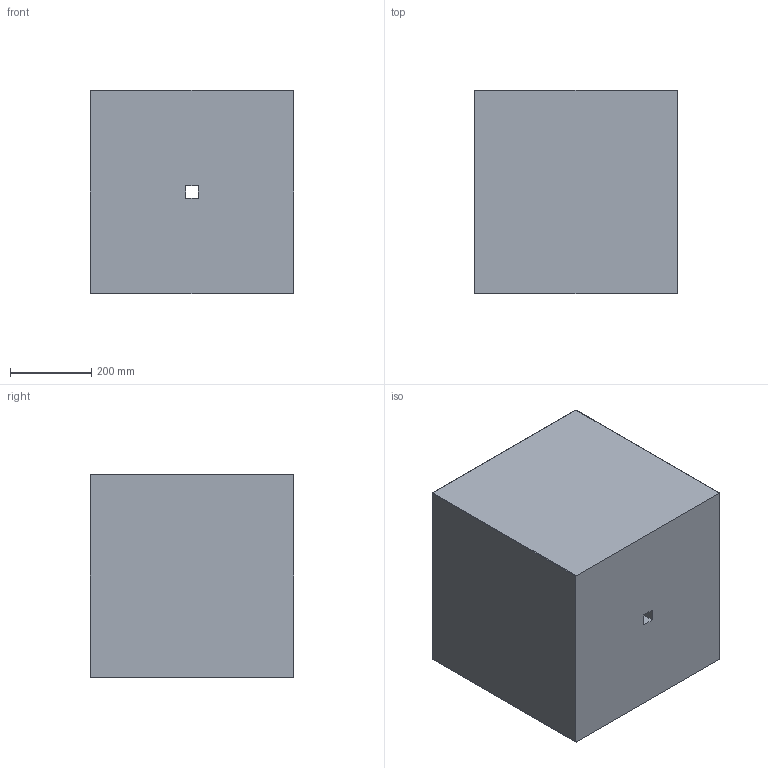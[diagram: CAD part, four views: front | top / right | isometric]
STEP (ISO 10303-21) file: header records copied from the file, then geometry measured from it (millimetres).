
FILE_DESCRIPTION(/* description */ (''),/* implementation_level */ '2;1');
FILE_NAME(/* name */ 'C:\Mac\Home\Desktop\btnv\inventor\cubo505050\donica betonowa Cubo 50x50x50cm.stp',/* time_stamp */ '2025-11-10T22:16:26+01:00',/* author */ ('dwasik'),/* organization */ (''),/* preprocessor_version */ 'ST-DEVELOPER v15.6',/* originating_system */ 'Autodesk Inventor 2015',/* authorisation */ '');
FILE_SCHEMA (('AUTOMOTIVE_DESIGN { 1 0 10303 214 3 1 1 }'));
Length unit declared in the file: millimetre
Products named in the file (1): Part1
Bounding box: 500 x 500 x 500 mm (x, y, z)
Volume: 33980142.3 mm3; surface area: 2327281.8 mm2
Topology: 1 solids, 1 shells, 27 faces, 60 edges, 36 vertices
Faces by surface type: plane 15, cylinder 8, sphere 4
Entity records: 762 total; most frequent: DIRECTION 132, CARTESIAN_POINT 124, ORIENTED_EDGE 120, EDGE_CURVE 60, LINE 44, VECTOR 44, AXIS2_PLACEMENT_3D 44, VERTEX_POINT 36
